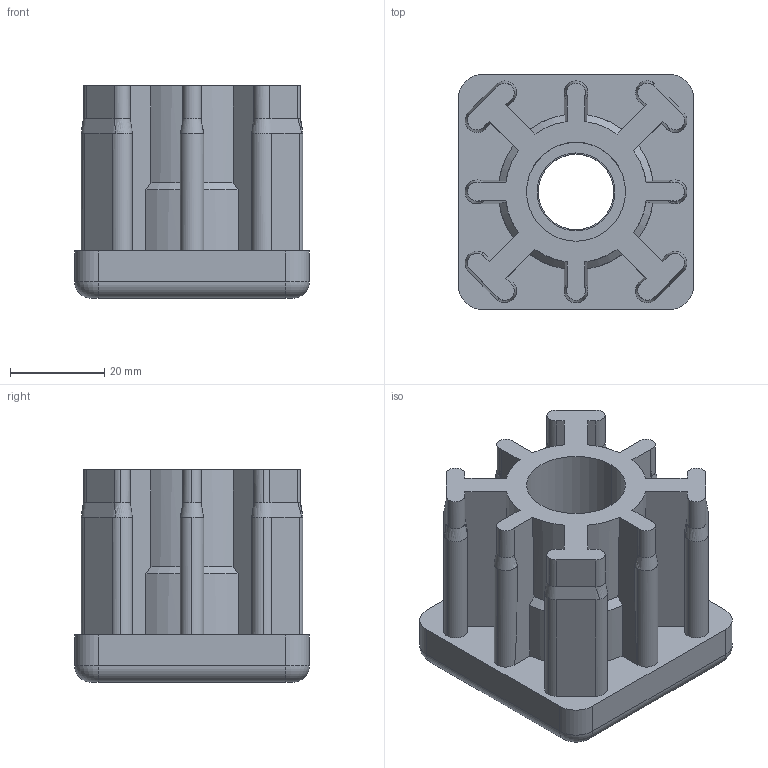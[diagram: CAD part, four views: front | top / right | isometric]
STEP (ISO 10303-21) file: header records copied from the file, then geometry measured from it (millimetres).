
FILE_DESCRIPTION (( 'STEP AP214' ), '1' );
FILE_NAME ('42006850216.STEP', '2020-02-26T11:17:41', ( '' ), ( '' ), 'SwSTEP 2.0', 'SolidWorks 2018', '' );
FILE_SCHEMA (( 'AUTOMOTIVE_DESIGN' ));
Length unit declared in the file: millimetre
Products named in the file (1): 42006850216
Bounding box: 49.8 x 49.8 x 45 mm (x, y, z)
Volume: 56161.8 mm3; surface area: 21168.8 mm2
Topology: 2 solids, 2 shells, 171 faces, 460 edges, 296 vertices
Faces by surface type: cylinder 76, plane 59, bspline 20, cone 12, torus 4
Entity records: 7138 total; most frequent: CARTESIAN_POINT 3054, ORIENTED_EDGE 920, DIRECTION 762, EDGE_CURVE 460, VERTEX_POINT 296, AXIS2_PLACEMENT_3D 285, VECTOR 192, LINE 192
